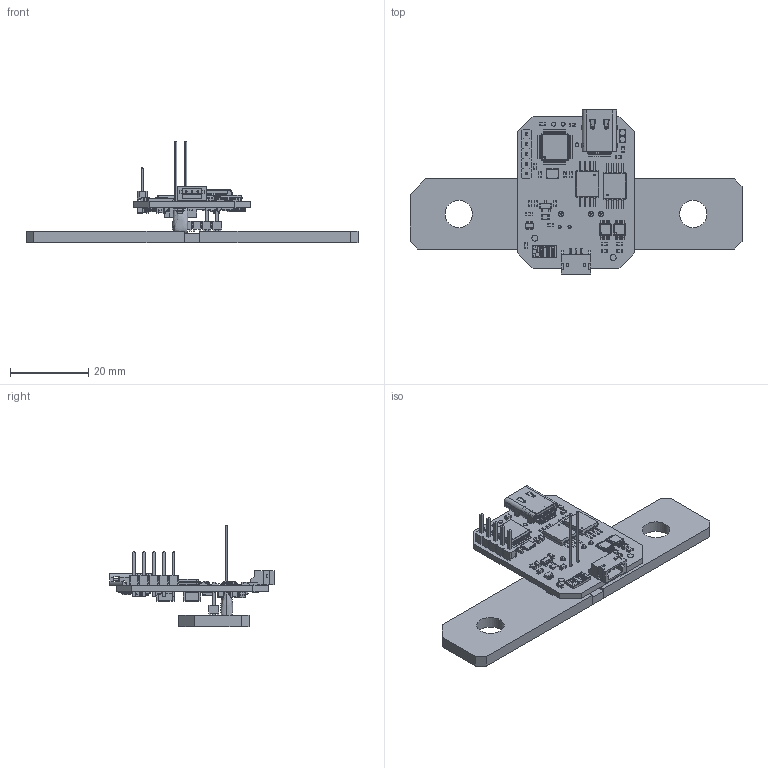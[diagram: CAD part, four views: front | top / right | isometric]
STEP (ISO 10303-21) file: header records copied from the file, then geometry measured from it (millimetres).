
FILE_DESCRIPTION(('Open CASCADE Model'),'2;1');
FILE_NAME('Open CASCADE Shape Model','2023-06-26T10:18:15',('Author'),( 'Open CASCADE'),'Open CASCADE STEP processor 6.8','Open CASCADE 6.8' ,'Unknown');
FILE_SCHEMA(('AUTOMOTIVE_DESIGN { 1 0 10303 214 1 1 1 1 }'));
Length unit declared in the file: millimetre
Products named in the file (182): PCB; Board; TP3; 1027227360; Cylinder; TP2; TP1; R21; R_0603_1608Metric; D5; 975889120; Body; Open_CASCADE_STEP_translator_6.8_1.1.1; Leader; R22; C25; C_0603_1608Metric; CX18; NTC1; NTCLE100E3103; CX4; CX3; R15; ST2; 61300511121_Download_STP_61300511121_rev1; 6130xx11121_PIN; 61300511121; R7; R6; C10; C15; C0805C105K5RACTU; L2; acm2012h-t05; ACM2012-T002_DR僐傾僽儘僢僋(typ_size); ACM2012-T002_電極ブロック(typ_size); C1; L3; R_0805_2012Metric; C9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
Assembly tree (291 placements, depth 5):
  PCB
    Board
    TP3
      1027227360
        Cylinder
    TP2
      1027227360
        Cylinder
    TP1
      1027227360
        Cylinder
    R21
      R_0603_1608Metric
    D5
      975889120
        Body
          Open_CASCADE_STEP_translator_6.8_1.1.1
        Leader  x3
    R22
      R_0603_1608Metric
    C25
      C_0603_1608Metric
    CX18
      C_0603_1608Metric
    NTC1
      NTCLE100E3103
    CX4
      C_0603_1608Metric
    CX3
      C_0603_1608Metric
    R15
      R_0603_1608Metric
    ST2
      61300511121_Download_STP_61300511121_rev1
        6130xx11121_PIN  x5
        61300511121
    R7
      R_0603_1608Metric
    R6
      R_0603_1608Metric
    C10
      C_0603_1608Metric
    C15
      C0805C105K5RACTU
    L2
      acm2012h-t05
        ACM2012-T002_DR僐傾僽儘僢僋(typ_size)
        ACM2012-T002_電極ブロック(typ_size)  x4
    C1
      C_0603_1608Metric
    L3
      R_0805_2012Metric
    C9
      C_0603_1608Metric
    Q1
      Crystal_SMD_3225-4Pin_3.2x2.5mm
    C2
      C_0603_1608Metric
    C4
      C_0603_1608Metric
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Bounding box: 85 x 42 x 26 mm (x, y, z)
Volume: 6880.2 mm3; surface area: 10375.9 mm2
Topology: 200 solids, 200 shells, 7617 faces, 19670 edges, 12462 vertices
Faces by surface type: plane 5224, cylinder 1914, bspline 331, sphere 114, torus 34
Full cylindrical faces by diameter (mm): 0.2 x2, 0.4 x22, 0.5 x1, 0.8 x2, 0.9 x5, 1.016 x3, 1.094 x10, 1.096 x12, 1.1 x4, 1.3 x3, 1.52 x8, 7 x2
Entity records: 155981 total; most frequent: CARTESIAN_POINT 37498, ORIENTED_EDGE 21878, DIRECTION 20202, EDGE_CURVE 10939, LINE 8848, VECTOR 8848, VERTEX_POINT 6981, AXIS2_PLACEMENT_3D 5677
